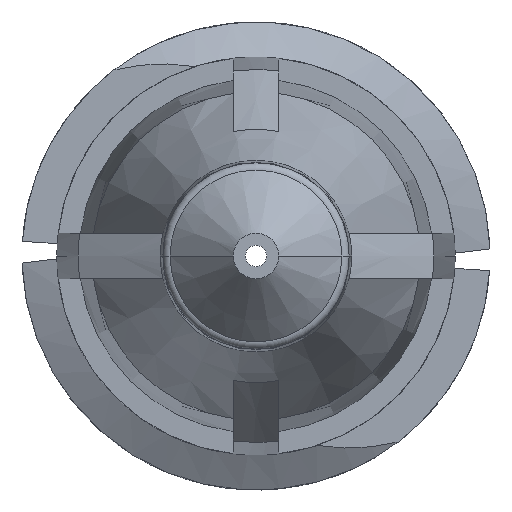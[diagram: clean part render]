
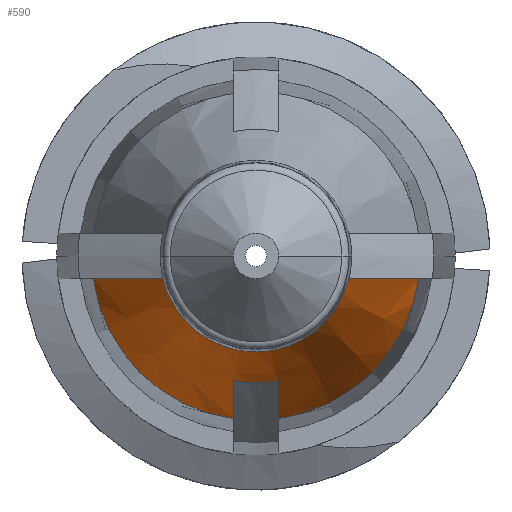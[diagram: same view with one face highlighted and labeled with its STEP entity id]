
A CAD part, front view. The second image highlights one B-rep face of the part: STEP entity #590.
In plain terms, the highlighted conical face has half-angle 20 degrees and reference radius 2.745 mm.
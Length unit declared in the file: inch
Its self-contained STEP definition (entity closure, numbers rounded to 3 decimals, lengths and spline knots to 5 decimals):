
#13 = EDGE_CURVE ( 'NONE', #1784, #1527, #1943, .T. ) ;
#187 = FACE_OUTER_BOUND ( 'NONE', #600, .T. ) ;
#200 = CARTESIAN_POINT ( 'NONE',  ( 0.10703, -0.406, -0.015 ) ) ;
#260 = CARTESIAN_POINT ( 'NONE',  ( -0.06119, -0.52985, -0.015 ) ) ;
#297 = CARTESIAN_POINT ( 'NONE',  ( 0.07664, -0.48863, -0.015 ) ) ;
#320 = DIRECTION ( 'NONE',  ( 0., 1., 0. ) ) ;
#361 = AXIS2_PLACEMENT_3D ( 'NONE', #3243, #2146, #1911 ) ;
#407 = CARTESIAN_POINT ( 'NONE',  ( 0.015, -0.406, -0.10703 ) ) ;
#412 = CARTESIAN_POINT ( 'NONE',  ( -0.07664, -0.48863, -0.015 ) ) ;
#420 = ORIENTED_EDGE ( 'NONE', *, *, #762, .F. ) ;
#459 = ORIENTED_EDGE ( 'NONE', *, *, #2024, .F. ) ;
#467 = VERTEX_POINT ( 'NONE', #815 ) ;
#493 = EDGE_CURVE ( 'NONE', #1841, #467, #1008, .T. ) ;
#543 = DIRECTION ( 'NONE',  ( -1., 0., 0. ) ) ;
#548 = DIRECTION ( 'NONE',  ( 0., 1., 0. ) ) ;
#590 = ADVANCED_FACE ( 'NONE', ( #187 ), #3105, .T. ) ;
#600 = EDGE_LOOP ( 'NONE', ( #459, #1957, #2365, #785, #1713, #2585, #420, #606 ) ) ;
#606 = ORIENTED_EDGE ( 'NONE', *, *, #493, .F. ) ;
#662 = CARTESIAN_POINT ( 'NONE',  ( 0.06119, -0.52985, -0.015 ) ) ;
#762 = EDGE_CURVE ( 'NONE', #467, #1784, #1251, .T. ) ;
#776 = AXIS2_PLACEMENT_3D ( 'NONE', #3554, #548, #2701 ) ;
#785 = ORIENTED_EDGE ( 'NONE', *, *, #1066, .F. ) ;
#815 = CARTESIAN_POINT ( 'NONE',  ( 0.015, -0.406, -0.10703 ) ) ;
#863 = CARTESIAN_POINT ( 'NONE',  ( 0.06119, -0.52985, -0.015 ) ) ;
#883 = CARTESIAN_POINT ( 'NONE',  ( -0.015, -0.406, -0.10703 ) ) ;
#962 = CIRCLE ( 'NONE', #1905, 0.063 ) ;
#964 = CARTESIAN_POINT ( 'NONE',  ( -0.015, -0.47395, -0.08198 ) ) ;
#979 = CARTESIAN_POINT ( 'NONE',  ( -0.09185, -0.44732, -0.015 ) ) ;
#1008 = CIRCLE ( 'NONE', #361, 0.10808 ) ;
#1029 = B_SPLINE_CURVE_WITH_KNOTS ( 'NONE', 3,
 ( #1800, #412, #979, #2334 ),
 .UNSPECIFIED., .F., .F.,
 ( 4, 4 ),
 ( 0.00282, 0.00617 ),
 .UNSPECIFIED. ) ;
#1066 = EDGE_CURVE ( 'NONE', #3461, #1965, #2084, .T. ) ;
#1101 = DIRECTION ( 'NONE',  ( 0., 1., 0. ) ) ;
#1122 = CARTESIAN_POINT ( 'NONE',  ( -0.015, -0.42866, -0.0987 ) ) ;
#1165 = CARTESIAN_POINT ( 'NONE',  ( 0., -0.52985, 0. ) ) ;
#1203 = EDGE_CURVE ( 'NONE', #3515, #2710, #962, .T. ) ;
#1251 = B_SPLINE_CURVE_WITH_KNOTS ( 'NONE', 3,
 ( #407, #1268, #2578, #2030 ),
 .UNSPECIFIED., .F., .F.,
 ( 4, 4 ),
 ( 0.00343, 0.00527 ),
 .UNSPECIFIED. ) ;
#1268 = CARTESIAN_POINT ( 'NONE',  ( 0.015, -0.42866, -0.0987 ) ) ;
#1375 = AXIS2_PLACEMENT_3D ( 'NONE', #1399, #1101, #543 ) ;
#1399 = CARTESIAN_POINT ( 'NONE',  ( 0., -0.47395, 0. ) ) ;
#1417 = DIRECTION ( 'NONE',  ( 1., 0., 0. ) ) ;
#1527 = VERTEX_POINT ( 'NONE', #964 ) ;
#1629 = CARTESIAN_POINT ( 'NONE',  ( 0., -0.406, 0. ) ) ;
#1653 = CARTESIAN_POINT ( 'NONE',  ( -0.10703, -0.406, -0.015 ) ) ;
#1676 = CARTESIAN_POINT ( 'NONE',  ( -0.015, -0.45131, -0.09036 ) ) ;
#1703 = CARTESIAN_POINT ( 'NONE',  ( 0.10703, -0.406, -0.015 ) ) ;
#1713 = ORIENTED_EDGE ( 'NONE', *, *, #2131, .F. ) ;
#1784 = VERTEX_POINT ( 'NONE', #2402 ) ;
#1800 = CARTESIAN_POINT ( 'NONE',  ( -0.06119, -0.52985, -0.015 ) ) ;
#1841 = VERTEX_POINT ( 'NONE', #200 ) ;
#1905 = AXIS2_PLACEMENT_3D ( 'NONE', #1165, #320, #1417 ) ;
#1911 = DIRECTION ( 'NONE',  ( 1., 0., 0. ) ) ;
#1943 = CIRCLE ( 'NONE', #1375, 0.08335 ) ;
#1957 = ORIENTED_EDGE ( 'NONE', *, *, #1203, .T. ) ;
#1965 = VERTEX_POINT ( 'NONE', #1653 ) ;
#1978 = DIRECTION ( 'NONE',  ( 1., 0., 0. ) ) ;
#2004 = CARTESIAN_POINT ( 'NONE',  ( 0.09185, -0.44732, -0.015 ) ) ;
#2024 = EDGE_CURVE ( 'NONE', #3515, #1841, #2928, .T. ) ;
#2030 = CARTESIAN_POINT ( 'NONE',  ( 0.015, -0.47395, -0.08198 ) ) ;
#2084 = CIRCLE ( 'NONE', #776, 0.10808 ) ;
#2131 = EDGE_CURVE ( 'NONE', #1527, #3461, #3196, .T. ) ;
#2146 = DIRECTION ( 'NONE',  ( 0., 1., 0. ) ) ;
#2318 = AXIS2_PLACEMENT_3D ( 'NONE', #1629, #3267, #1978 ) ;
#2334 = CARTESIAN_POINT ( 'NONE',  ( -0.10703, -0.406, -0.015 ) ) ;
#2365 = ORIENTED_EDGE ( 'NONE', *, *, #2858, .T. ) ;
#2402 = CARTESIAN_POINT ( 'NONE',  ( 0.015, -0.47395, -0.08198 ) ) ;
#2495 = CARTESIAN_POINT ( 'NONE',  ( -0.015, -0.47395, -0.08198 ) ) ;
#2578 = CARTESIAN_POINT ( 'NONE',  ( 0.015, -0.45131, -0.09036 ) ) ;
#2585 = ORIENTED_EDGE ( 'NONE', *, *, #13, .F. ) ;
#2701 = DIRECTION ( 'NONE',  ( 1., 0., 0. ) ) ;
#2710 = VERTEX_POINT ( 'NONE', #260 ) ;
#2858 = EDGE_CURVE ( 'NONE', #2710, #1965, #1029, .T. ) ;
#2877 = CARTESIAN_POINT ( 'NONE',  ( -0.015, -0.406, -0.10703 ) ) ;
#2928 = B_SPLINE_CURVE_WITH_KNOTS ( 'NONE', 3,
 ( #863, #297, #2004, #1703 ),
 .UNSPECIFIED., .F., .F.,
 ( 4, 4 ),
 ( 0.00282, 0.00617 ),
 .UNSPECIFIED. ) ;
#3105 = CONICAL_SURFACE ( 'NONE', #2318, 0.10808, 0.349 ) ;
#3196 = B_SPLINE_CURVE_WITH_KNOTS ( 'NONE', 3,
 ( #2495, #1676, #1122, #883 ),
 .UNSPECIFIED., .F., .F.,
 ( 4, 4 ),
 ( 0.00247, 0.00431 ),
 .UNSPECIFIED. ) ;
#3243 = CARTESIAN_POINT ( 'NONE',  ( 0., -0.406, 0. ) ) ;
#3267 = DIRECTION ( 'NONE',  ( 0., 1., 0. ) ) ;
#3461 = VERTEX_POINT ( 'NONE', #2877 ) ;
#3515 = VERTEX_POINT ( 'NONE', #662 ) ;
#3554 = CARTESIAN_POINT ( 'NONE',  ( 0., -0.406, 0. ) ) ;
